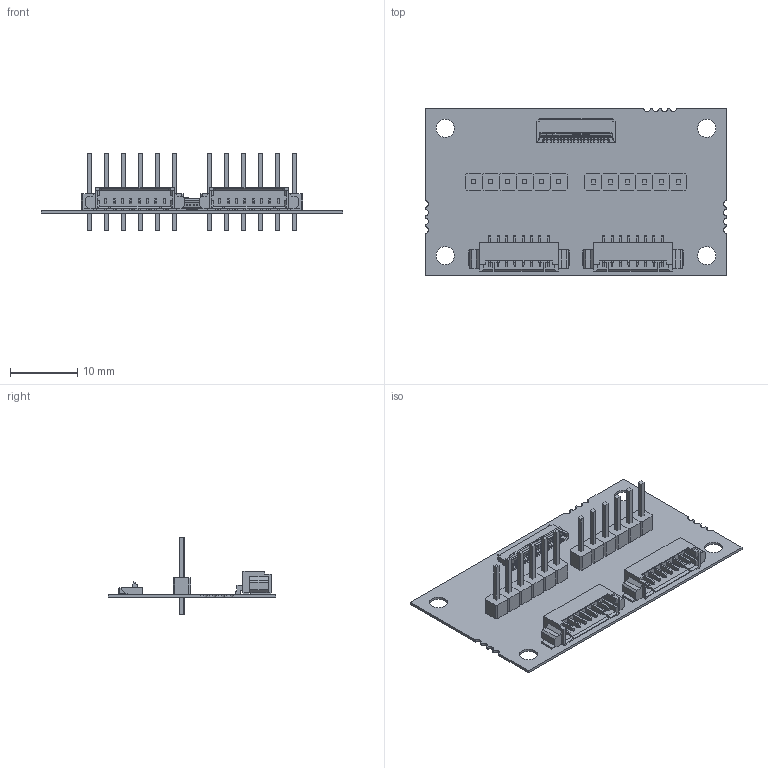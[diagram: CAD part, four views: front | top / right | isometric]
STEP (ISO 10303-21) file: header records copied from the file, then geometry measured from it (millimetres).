
FILE_DESCRIPTION(('Open CASCADE Model'),'2;1');
FILE_NAME('Open CASCADE Shape Model','2020-11-24T10:59:24',('Author'),( 'Open CASCADE'),'Open CASCADE STEP processor 6.8','Open CASCADE 6.8' ,'Unknown');
FILE_SCHEMA(('AUTOMOTIVE_DESIGN { 1 0 10303 214 1 1 1 1 }'));
Length unit declared in the file: millimetre
Products named in the file (19): PCB; Board; KS1; 10114830-XXX08LFc; KM1; KS3; SW3dPS-STRIPM02; SW3dPS-STRIPM02_Open_CASCADE_STEP_translator_6.2_1119.1; SW3dPS-STRIPM02_352707920; SW3dPS-STRIPM02_Extruded; SW3dPS-STRIPM02_352710992; SW3dPS-STRIPM02_Extruded1; KS2; KM3; KM2; PB; 5034802000; Open CASCADE STEP translator 6.8 1.8.1.1; Open CASCADE STEP translator 6.8 1.8.1.2
Assembly tree (26 placements, depth 6):
  PCB
    Board
    KS1
      10114830-XXX08LFc
    KM1
      10114830-XXX08LFc
    KS3
      SW3dPS-STRIPM02  x2
        SW3dPS-STRIPM02_Open_CASCADE_STEP_translator_6.2_1119.1
          SW3dPS-STRIPM02_352707920  x2
            SW3dPS-STRIPM02_Extruded
          SW3dPS-STRIPM02_352710992  x2
            SW3dPS-STRIPM02_Extruded1
    KS2
      SW3dPS-STRIPM02
        SW3dPS-STRIPM02_Open_CASCADE_STEP_translator_6.2_1119.1
          SW3dPS-STRIPM02_352707920  x2
            SW3dPS-STRIPM02_Extruded
          SW3dPS-STRIPM02_352710992  x2
            SW3dPS-STRIPM02_Extruded1
    KM3
      SW3dPS-STRIPM02  x2
        SW3dPS-STRIPM02_Open_CASCADE_STEP_translator_6.2_1119.1
          SW3dPS-STRIPM02_352707920  x2
            SW3dPS-STRIPM02_Extruded
          SW3dPS-STRIPM02_352710992  x2
            SW3dPS-STRIPM02_Extruded1
    KM2
      SW3dPS-STRIPM02
        SW3dPS-STRIPM02_Open_CASCADE_STEP_translator_6.2_1119.1
          SW3dPS-STRIPM02_352707920  x2
            SW3dPS-STRIPM02_Extruded
          SW3dPS-STRIPM02_352710992  x2
            SW3dPS-STRIPM02_Extruded1
    PB
      5034802000
        Open CASCADE STEP translator 6.8 1.8.1.1
        Open CASCADE STEP translator 6.8 1.8.1.2
Bounding box: 45 x 25 x 11.5 mm (x, y, z)
Volume: 885.9 mm3; surface area: 3941 mm2
Topology: 28 solids, 28 shells, 1618 faces, 4351 edges, 2990 vertices
Faces by surface type: plane 1530, cylinder 88
Full cylindrical faces by diameter (mm): 0.9 x12, 2.7 x4
Entity records: 37718 total; most frequent: CARTESIAN_POINT 6802, ORIENTED_EDGE 6394, DIRECTION 5887, EDGE_CURVE 3197, LINE 3109, VECTOR 3109, VERTEX_POINT 2116, AXIS2_PLACEMENT_3D 1389
